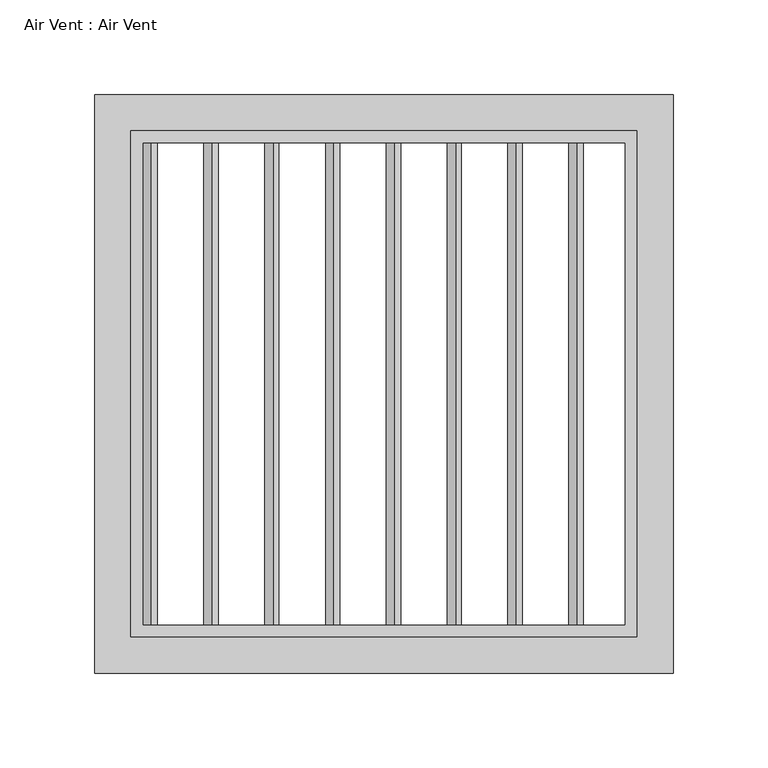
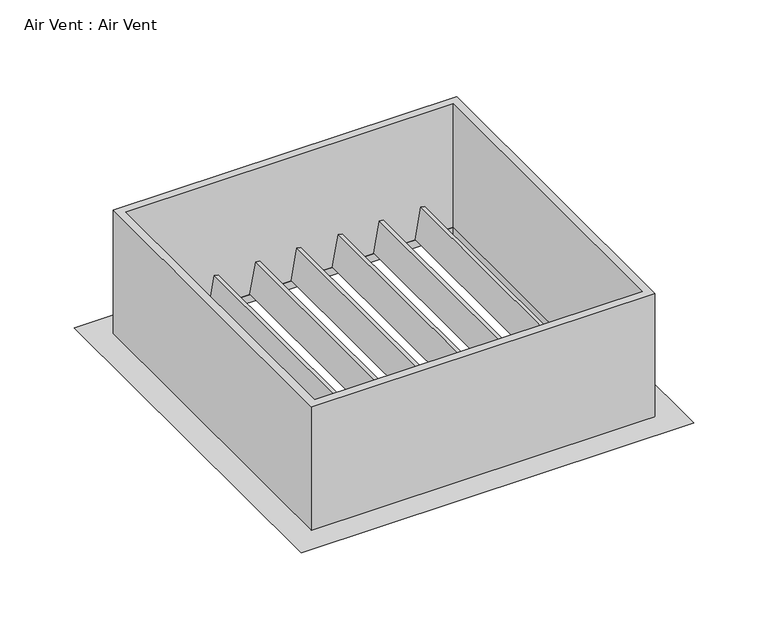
"""IFC4 building model written with IfcOpenShell, lengths in millimetres: proxy geometry, Air Vent : Air Vent."""

import ifcopenshell
import ifcopenshell.guid

model = None  # the IFC model being written
_history = None  # IfcOwnerHistory: only IFC2X3 demands one
_inside = {}  # id of a spatial element -> (the spatial element, [elements in it])
_under = {}  # id of a project, library or spatial element -> (it, [spatial elements below it])
_declared = {}  # id of a project -> (the project, [libraries it declares])
_typed = {}  # id of a type object -> (the type object, [elements of that type])
_made_of = {}  # id of a material, layer set ... -> (it, [elements and type objects made of it])


def new_model(schema):
    """Start an empty IFC model of exactly this schema.

    Asked for "IFC4X3", IfcOpenShell would pick the latest addendum, in which some entities
    have other attributes; the version numbers below select the first issue.
    IFC2X3 requires an IfcOwnerHistory on every rooted entity: one is made here for all.
    """
    global model, _history
    if schema == "IFC4X3":
        model = ifcopenshell.file(schema_version=(4, 3, 0, 0))
    else:
        model = ifcopenshell.file(schema=schema)
    _inside.clear()
    _under.clear()
    _declared.clear()
    _typed.clear()
    _made_of.clear()
    _history = None
    if model.schema == "IFC2X3":
        org = make("IfcOrganization", Name="unknown")
        user = make(
            "IfcPersonAndOrganization",
            ThePerson=make("IfcPerson", FamilyName="unknown"),
            TheOrganization=org,
        )
        app = make(
            "IfcApplication",
            ApplicationDeveloper=org,
            Version="unknown",
            ApplicationFullName="unknown",
            ApplicationIdentifier="unknown",
        )
        _history = make(
            "IfcOwnerHistory",
            OwningUser=user,
            OwningApplication=app,
            ChangeAction="ADDED",
            CreationDate=0,
        )
    return model


def make(cls, **values):
    """One entity of the class cls with the attributes given. An attribute that is None is left unset."""
    return model.create_entity(
        cls, **{name: value for name, value in values.items() if value is not None}
    )


def rooted(cls, **values):
    """An entity with a GlobalId (a new one), such as an element, a storey or a relation."""
    return make(cls, GlobalId=ifcopenshell.guid.new(), OwnerHistory=_history, **values)


def si_unit(unit_type, name, prefix=None):
    """IfcSIUnit, for example si_unit("LENGTHUNIT", "METRE", prefix="MILLI")."""
    return make("IfcSIUnit", UnitType=unit_type, Prefix=prefix, Name=name)


def assignment(units):
    """IfcUnitAssignment: the units of a project."""
    return None if units is None else make("IfcUnitAssignment", Units=units)


def point(xyz):
    """IfcCartesianPoint."""
    return None if xyz is None else make("IfcCartesianPoint", Coordinates=xyz)


def direction(xyz):
    """IfcDirection."""
    return None if xyz is None else make("IfcDirection", DirectionRatios=xyz)


def frame(location, z_axis=None, x_axis=None):
    """IfcAxis2Placement3D, a coordinate frame: its origin and axes. An axis left out is left unset."""
    return make(
        "IfcAxis2Placement3D",
        Location=point(location),
        Axis=direction(z_axis),
        RefDirection=direction(x_axis),
    )


def origin():
    """The frame at (0, 0, 0) with its axes left unset."""
    return frame((0.0, 0.0, 0.0))


def place(relative_to, where):
    """IfcLocalPlacement: puts the frame where relative to a parent placement (None: the world)."""
    return make(
        "IfcLocalPlacement", PlacementRelTo=relative_to, RelativePlacement=where
    )


def context(
    kind, dimensions, precision=None, world=None, true_north=None, identifier=None
):
    """IfcGeometricRepresentationContext, for example the 3D "Model" context."""
    return make(
        "IfcGeometricRepresentationContext",
        ContextIdentifier=identifier,
        ContextType=kind,
        CoordinateSpaceDimension=dimensions,
        Precision=precision,
        WorldCoordinateSystem=world,
        TrueNorth=true_north,
    )


def project(units=None, contexts=None):
    """IfcProject with its units and contexts."""
    return rooted(
        "IfcProject",
        Name="project",
        RepresentationContexts=contexts,
        UnitsInContext=assignment(units),
    )


def spatial(cls, under=None, at=None, **own):
    """A site, building, storey or space (cls), placed at a placement, below another one or the project."""
    s = rooted(cls, ObjectPlacement=at, **own)
    if under is not None:
        _under.setdefault(under.id(), (under, []))[1].append(s)
    return s


def polyline(points):
    """IfcPolyline through the points."""
    return make("IfcPolyline", Points=[point(p) for p in points])


def outline(outer, holes=None, kind="AREA"):
    """IfcArbitraryClosedProfileDef: a profile drawn as a closed curve; with holes, ...WithVoids."""
    if holes is None:
        return make("IfcArbitraryClosedProfileDef", ProfileType=kind, OuterCurve=outer)
    return make(
        "IfcArbitraryProfileDefWithVoids",
        ProfileType=kind,
        OuterCurve=outer,
        InnerCurves=holes,
    )


def extrude(swept, where, along, depth):
    """IfcExtrudedAreaSolid: the profile swept, set in the frame where, extruded along a direction by depth."""
    return make(
        "IfcExtrudedAreaSolid",
        SweptArea=swept,
        Position=where,
        ExtrudedDirection=direction(along),
        Depth=depth,
    )


def faces_of(points, faces, orient=None, outer=None):
    """IfcFace entities. A face is a list of loops; a loop is a list of indices into points, from 0.

    orient and outer hold one flag for each loop. By default every Orientation is true, the
    first loop of a face is its IfcFaceOuterBound and the others are IfcFaceBound.
    """
    made = []
    for i, loops in enumerate(faces):
        bounds = []
        for j, loop in enumerate(loops):
            is_outer = j == 0 if outer is None else outer[i][j]
            bounds.append(
                make(
                    "IfcFaceOuterBound" if is_outer else "IfcFaceBound",
                    Bound=make("IfcPolyLoop", Polygon=[points[k] for k in loop]),
                    Orientation=True if orient is None else orient[i][j],
                )
            )
        made.append(make("IfcFace", Bounds=bounds))
    return made


def faceted_brep(points, faces, orient=None, outer=None, voids=None):
    """IfcFacetedBrep: a solid bounded by flat faces; with voids (closed shells), ...WithVoids."""
    shared = [point(p) for p in points]
    hull = make("IfcClosedShell", CfsFaces=faces_of(shared, faces, orient, outer))
    if voids is None:
        return make("IfcFacetedBrep", Outer=hull)
    return make(
        "IfcFacetedBrepWithVoids",
        Outer=hull,
        Voids=[
            make(cls, CfsFaces=faces_of(shared, fs, o, b)) for cls, fs, o, b in voids
        ],
    )


def shape(context_of_items, identifier, shape_type, items):
    """IfcShapeRepresentation: the items that make up one representation, for example the "Body"."""
    return make(
        "IfcShapeRepresentation",
        ContextOfItems=context_of_items,
        RepresentationIdentifier=identifier,
        RepresentationType=shape_type,
        Items=items,
    )


def source(mapping_origin, context_of_items, identifier, shape_type, items):
    """IfcRepresentationMap: a shape defined once, which mapped items show again and again."""
    return make(
        "IfcRepresentationMap",
        MappingOrigin=mapping_origin,
        MappedRepresentation=shape(context_of_items, identifier, shape_type, items),
    )


def transform(
    local_origin,
    x_axis=None,
    y_axis=None,
    z_axis=None,
    scale=None,
    scale2=None,
    scale3=None,
    uniform=True,
):
    """IfcCartesianTransformationOperator3D, or its non-uniform kind. x_axis, y_axis, z_axis: its Axis1, 2, 3."""
    if uniform:
        return make(
            "IfcCartesianTransformationOperator3D",
            Axis1=direction(x_axis),
            Axis2=direction(y_axis),
            LocalOrigin=point(local_origin),
            Scale=scale,
            Axis3=direction(z_axis),
        )
    return make(
        "IfcCartesianTransformationOperator3DnonUniform",
        Axis1=direction(x_axis),
        Axis2=direction(y_axis),
        LocalOrigin=point(local_origin),
        Scale=scale,
        Axis3=direction(z_axis),
        Scale2=scale2,
        Scale3=scale3,
    )


def mapped(mapping_source, mapping_target):
    """IfcMappedItem: shows the shape of a source again, moved by a transform."""
    return make(
        "IfcMappedItem", MappingSource=mapping_source, MappingTarget=mapping_target
    )


def made_of(thing, what):
    """Note that an element or type object is made of a material, layer set ...; save() writes the relation."""
    if what is not None:
        _made_of.setdefault(what.id(), (what, []))[1].append(thing)
    return thing


def element(
    cls,
    number,
    at=None,
    inside=None,
    cuts=None,
    type_object=None,
    material=None,
    context=None,
    identifier="Body",
    shape_type=None,
    held_by="IfcProductDefinitionShape",
    body=None,
    shapes=None,
    **own,
):
    """One element of the class cls, such as IfcWall. Its Tag is "e" and its number.

    at: its placement. inside: the storey or other place that contains it. cuts: it is an
    opening in that element (IfcRelVoidsElement). A single representation is given by context,
    identifier, shape_type and body (its items); several are given by shapes. held_by: the class
    of the entity that holds the representations. save() writes the other relations.
    """
    e = rooted(cls, Tag="e%d" % number, ObjectPlacement=at, **own)
    if body is not None:
        shapes = [shape(context, identifier, shape_type, body)]
    if shapes is not None:
        e.Representation = make(held_by, Representations=shapes)
    if inside is not None:
        _inside.setdefault(inside.id(), (inside, []))[1].append(e)
    if cuts is not None:
        rooted(
            "IfcRelVoidsElement", RelatingBuildingElement=cuts, RelatedOpeningElement=e
        )
    if type_object is not None:
        _typed.setdefault(type_object.id(), (type_object, []))[1].append(e)
    return made_of(e, material)


def aggregate(whole, parts):
    """IfcRelAggregates: a whole, such as a stair, and the parts it consists of."""
    return rooted("IfcRelAggregates", RelatingObject=whole, RelatedObjects=parts)


def save(model, path):
    """Write the relations noted so far, then the file.

    IfcRelAggregates (storeys below a building ...), IfcRelContainedInSpatialStructure (elements
    in a storey), IfcRelDefinesByType, IfcRelAssociatesMaterial and IfcRelDeclares: one each for
    every whole, place, type object, material and project.
    """
    for whole, parts in _under.values():
        aggregate(whole, parts)
    for where, things in _inside.values():
        rooted(
            "IfcRelContainedInSpatialStructure",
            RelatedElements=things,
            RelatingStructure=where,
        )
    for kind, things in _typed.values():
        rooted("IfcRelDefinesByType", RelatedObjects=things, RelatingType=kind)
    for what, things in _made_of.values():
        rooted("IfcRelAssociatesMaterial", RelatedObjects=things, RelatingMaterial=what)
    for by, libraries in _declared.values():
        rooted("IfcRelDeclares", RelatingContext=by, RelatedDefinitions=libraries)
    model.write(path)


def air_vent_air_vent_fe58e0aa(model_context):
    return source(origin(), model_context, "Body", "SolidModel", [
        extrude(outline(polyline([(0.0, -3.175), (0.0, 0.0), (254.0, 0.0), (254.0, -3.175), (0.0, -3.175)])), frame((-94.9418006, -127.0, 2438.951333), z_axis=(0.1736481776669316, 0.0, 0.9848077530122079), x_axis=(0.0, 1.0, 0.0)), (0.0, 0.0, 1.0), 25.4),
        extrude(outline(polyline([(0.0, -3.175), (0.0, 0.0), (254.0, 0.0), (254.0, -3.175), (0.0, -3.175)])), frame((-62.8836012, -127.0, 2438.951333), z_axis=(0.1736481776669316, 0.0, 0.9848077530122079), x_axis=(0.0, 1.0, 0.0)), (0.0, 0.0, 1.0), 25.4),
        extrude(outline(polyline([(0.0, -3.175), (0.0, 0.0), (254.0, 0.0), (254.0, -3.175), (0.0, -3.175)])), frame((-30.8254018, -127.0, 2438.951333), z_axis=(0.1736481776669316, 0.0, 0.9848077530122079), x_axis=(0.0, 1.0, 0.0)), (0.0, 0.0, 1.0), 25.4),
        extrude(outline(polyline([(0.0, -3.1750001), (0.0, 0.0), (254.0, 0.0), (254.0, -3.1750001), (0.0, -3.1750001)])), frame((1.2327975, -127.0, 2438.951333), z_axis=(0.1736481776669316, 0.0, 0.9848077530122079), x_axis=(0.0, 1.0, 0.0)), (0.0, 0.0, 1.0), 25.4),
        extrude(outline(polyline([(0.0, -3.175), (0.0, 0.0), (254.0, 0.0), (254.0, -3.175), (0.0, -3.175)])), frame((33.2909969, -127.0, 2438.951333), z_axis=(0.1736481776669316, 0.0, 0.9848077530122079), x_axis=(0.0, 1.0, 0.0)), (0.0, 0.0, 1.0), 25.4),
        extrude(outline(polyline([(0.0, -3.175), (0.0, 0.0), (254.0, 0.0), (254.0, -3.175), (0.0, -3.175)])), frame((65.3491963, -127.0, 2438.951333), z_axis=(0.1736481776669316, 0.0, 0.9848077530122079), x_axis=(0.0, 1.0, 0.0)), (0.0, 0.0, 1.0), 25.4),
        extrude(outline(polyline([(0.0, -3.175), (0.0, 0.0), (254.0, 0.0), (254.0, -3.175), (0.0, -3.175)])), frame((97.4073957, -127.0, 2438.951333), z_axis=(0.1736481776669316, 0.0, 0.9848077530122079), x_axis=(0.0, 1.0, 0.0)), (0.0, 0.0, 1.0), 25.4),
        extrude(outline(polyline([(0.0, -3.175), (0.0, 0.0), (254.0, 0.0), (254.0, -3.175), (0.0, -3.175)])), frame((-127.0, -127.0, 2438.951333), z_axis=(0.1736481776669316, 0.0, 0.9848077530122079), x_axis=(0.0, 1.0, 0.0)), (0.0, 0.0, 1.0), 25.4),
        faceted_brep([(127.0, 127.0, 2438.4), (127.0, 127.0, 2432.05), (127.0, -127.0, 2432.05), (127.0, -127.0, 2438.4), (-127.0, -127.0, 2432.05), (-127.0, -127.0, 2438.4), (-127.0, 127.0, 2432.05), (-127.0, 127.0, 2438.4), (139.7, -139.7, 2432.05), (-139.7, -139.7, 2432.05), (-139.7, 139.7, 2432.05), (139.7, 139.7, 2432.05), (152.4, 152.4, 2438.4), (-152.4, 152.4, 2438.4), (-152.4, -152.4, 2438.4), (152.4, -152.4, 2438.4)], [[[0, 1, 2, 3]], [[3, 2, 4, 5]], [[5, 4, 6, 7]], [[8, 9, 10, 11], [1, 6, 4, 2]], [[12, 13, 14, 15], [3, 5, 7, 0]], [[7, 6, 1, 0]], [[11, 12, 15, 8]], [[8, 15, 14, 9]], [[9, 14, 13, 10]], [[10, 13, 12, 11]]]),
        extrude(outline(polyline([(133.35, 133.35), (133.35, -133.35), (-133.35, -133.35), (-133.35, 133.35), (133.35, 133.35)]), holes=[polyline([(127.0, 127.0), (-127.0, 127.0), (-127.0, -127.0), (127.0, -127.0), (127.0, 127.0)])]), frame((0.0, 0.0, 2438.4), z_axis=(0.0, 0.0, 1.0), x_axis=(1.0, 0.0, 0.0)), (0.0, 0.0, 1.0), 101.6),
    ])


if __name__ == "__main__":
    model = new_model("IFC4")
    model_context = context("Model", 3, world=origin())
    ifc_project = project(units=[si_unit("LENGTHUNIT", "METRE", prefix="MILLI")], contexts=[model_context])
    site = spatial("IfcSite", under=ifc_project)
    building = spatial("IfcBuilding", under=site)
    placement = place(None, origin())
    air_vent_air_vent_shape = air_vent_air_vent_fe58e0aa(model_context)
    element("IfcBuildingElementProxy", 1, Name="Air Vent : Air Vent", ObjectType="Air Vent : Air Vent", at=placement, inside=building, context=model_context, shape_type="MappedRepresentation", body=[
        mapped(air_vent_air_vent_shape, transform((0.0, 0.0, 0.0), x_axis=(1.0, 0.0, 0.0), y_axis=(0.0, 1.0, 0.0), z_axis=(0.0, 0.0, 1.0))),
    ])
    save(model, "model.ifc")
